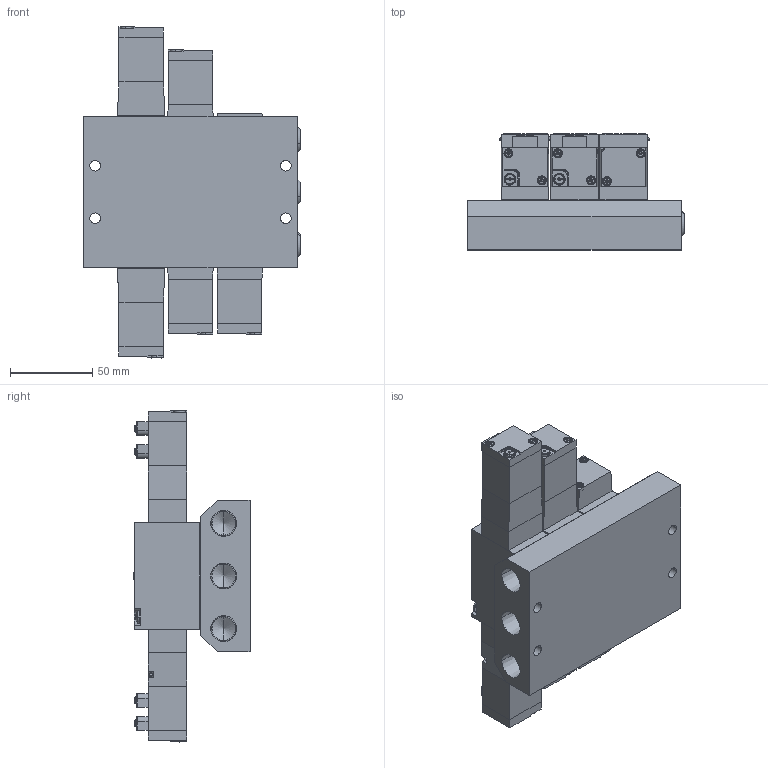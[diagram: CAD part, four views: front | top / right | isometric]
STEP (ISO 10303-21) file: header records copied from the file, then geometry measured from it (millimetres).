
FILE_DESCRIPTION (( 'STEP AP203' ), '1' );
FILE_NAME ('MFU#-RC08-L.STEP', '2016-02-04T05:40:58', ( 'Sam Lin' ), ( '' ), 'SwSTEP 2.0', 'SolidWorks 2013', '' );
FILE_SCHEMA (( 'CONFIG_CONTROL_DESIGN' ));
Length unit declared in the file: metre
Products named in the file (15): PCS2406-9; MFU#-RC08; PC6-M3; RC08-墊片; PCS2406-7-L; RC08-1; PC08-5; PC08-4; RC08-2; PCS2406-3-小圓珠; 承頭3-8; RC08-MARK; MFU#-RC08-L; ISO 7045 - M4 x 40; PCS2406-8
Assembly tree (60 placements, depth 2):
  MFU#-RC08-L
    MFU#-RC08
    RC08-墊片  x3
    RC08-1  x3
    PC08-4  x5
    PCS2406-3-小圓珠  x6
    RC08-MARK  x3
    ISO 7045 - M4 x 40  x6
    PCS2406-8  x5
    PCS2406-9  x5
    PC6-M3  x12
    PCS2406-7-L  x5
    PC08-5  x2
    RC08-2
    承頭3-8  x3
Bounding box: 131.89 x 70.62 x 202 mm (x, y, z)
Volume: 686249.1 mm3; surface area: 174681.6 mm2
Topology: 78 solids, 78 shells, 1710 faces, 4219 edges, 2660 vertices
Faces by surface type: plane 906, cylinder 361, cone 237, bspline 206
Entity records: 16544 total; most frequent: CARTESIAN_POINT 3549, DIRECTION 2161, ORIENTED_EDGE 2042, EDGE_CURVE 1021, AXIS2_PLACEMENT_3D 782, VERTEX_POINT 670, VECTOR 597, LINE 597
